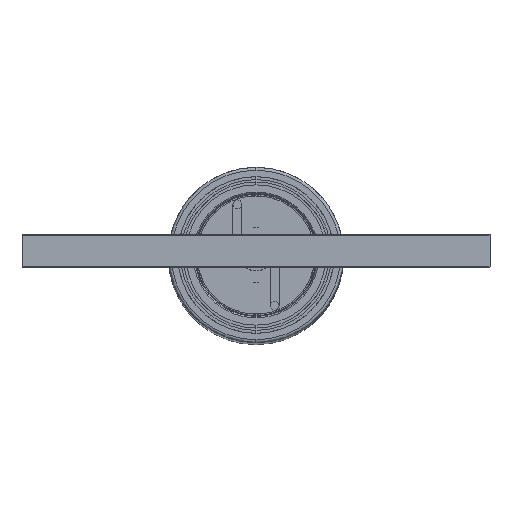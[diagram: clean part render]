
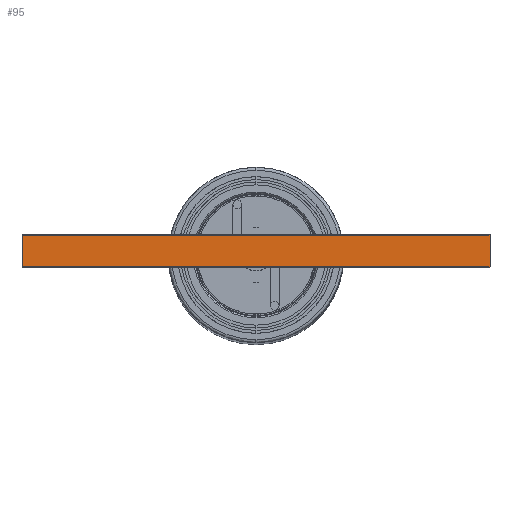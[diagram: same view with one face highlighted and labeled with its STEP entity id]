
A CAD part, top view. The second image highlights one B-rep face of the part: STEP entity #95.
In plain terms, the highlighted planar face has unit normal (0, 0, 1).
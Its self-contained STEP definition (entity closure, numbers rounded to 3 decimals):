
#95=ADVANCED_FACE('',(#243),#2707,.T.);
#243=FACE_OUTER_BOUND('',#395,.T.);
#395=EDGE_LOOP('',(#682,#683,#684,#685));
#682=ORIENTED_EDGE('',*,*,#1433,.T.);
#683=ORIENTED_EDGE('',*,*,#1434,.T.);
#684=ORIENTED_EDGE('',*,*,#1435,.F.);
#685=ORIENTED_EDGE('',*,*,#1431,.F.);
#1431=EDGE_CURVE('',#2455,#2456,#1780,.T.);
#1433=EDGE_CURVE('',#2455,#2457,#1782,.T.);
#1434=EDGE_CURVE('',#2457,#2458,#1783,.T.);
#1435=EDGE_CURVE('',#2456,#2458,#1784,.T.);
#1780=B_SPLINE_CURVE_WITH_KNOTS('',1,(#4319,#4320),.UNSPECIFIED.,.F.,.F.,
(2,2),(0.,160.06),.UNSPECIFIED.);
#1782=B_SPLINE_CURVE_WITH_KNOTS('',1,(#4323,#4324),.UNSPECIFIED.,.F.,.F.,
(2,2),(-47.603,-36.917),.UNSPECIFIED.);
#1783=B_SPLINE_CURVE_WITH_KNOTS('',1,(#4325,#4326),.UNSPECIFIED.,.F.,.F.,
(2,2),(0.,160.06),.UNSPECIFIED.);
#1784=B_SPLINE_CURVE_WITH_KNOTS('',1,(#4327,#4328),.UNSPECIFIED.,.F.,.F.,
(2,2),(-47.603,-36.917),.UNSPECIFIED.);
#2455=VERTEX_POINT('',#4297);
#2456=VERTEX_POINT('',#4298);
#2457=VERTEX_POINT('',#4299);
#2458=VERTEX_POINT('',#4300);
#2707=PLANE('',#3006);
#3006=AXIS2_PLACEMENT_3D('',#4285,#3391,$);
#3391=DIRECTION('',(0.,0.,1.));
#4285=CARTESIAN_POINT('',(-80.055,5.343,0.));
#4297=CARTESIAN_POINT('',(-80.055,5.343,0.));
#4298=CARTESIAN_POINT('',(80.055,5.343,0.));
#4299=CARTESIAN_POINT('',(-80.055,-5.343,0.));
#4300=CARTESIAN_POINT('',(80.055,-5.343,0.));
#4319=CARTESIAN_POINT('',(-80.055,5.343,0.));
#4320=CARTESIAN_POINT('',(80.055,5.343,0.));
#4323=CARTESIAN_POINT('',(-80.055,5.343,0.));
#4324=CARTESIAN_POINT('',(-80.055,-5.343,0.));
#4325=CARTESIAN_POINT('',(-80.055,-5.343,0.));
#4326=CARTESIAN_POINT('',(80.055,-5.343,0.));
#4327=CARTESIAN_POINT('',(80.055,5.343,0.));
#4328=CARTESIAN_POINT('',(80.055,-5.343,0.));
